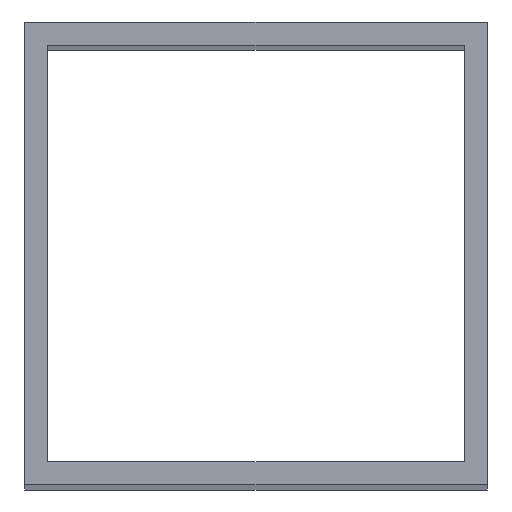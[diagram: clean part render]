
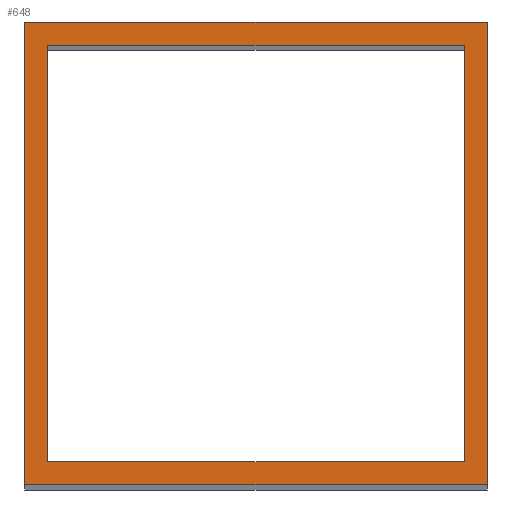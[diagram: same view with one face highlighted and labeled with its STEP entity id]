
A CAD part, top view. The second image highlights one B-rep face of the part: STEP entity #648.
In plain terms, the highlighted planar face has unit normal (0, 0, 1).
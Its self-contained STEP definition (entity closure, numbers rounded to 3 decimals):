
#24 = VERTEX_POINT('',#25);
#25 = CARTESIAN_POINT('',(50.,-50.,630.));
#32 = PLANE('',#33);
#33 = AXIS2_PLACEMENT_3D('',#34,#35,#36);
#34 = CARTESIAN_POINT('',(50.,-50.,0.));
#35 = DIRECTION('',(-0.,1.,-0.));
#36 = DIRECTION('',(1.,0.,0.));
#44 = PLANE('',#45);
#45 = AXIS2_PLACEMENT_3D('',#46,#47,#48);
#46 = CARTESIAN_POINT('',(50.,50.,0.));
#47 = DIRECTION('',(-1.,-0.,-0.));
#48 = DIRECTION('',(0.,1.,0.));
#56 = EDGE_CURVE('',#24,#57,#59,.T.);
#57 = VERTEX_POINT('',#58);
#58 = CARTESIAN_POINT('',(-50.,-50.,630.));
#59 = SURFACE_CURVE('',#60,(#64,#71),.PCURVE_S1.);
#60 = LINE('',#61,#62);
#61 = CARTESIAN_POINT('',(50.,-50.,630.));
#62 = VECTOR('',#63,1.);
#63 = DIRECTION('',(-1.,-0.,-0.));
#64 = PCURVE('',#32,#65);
#65 = DEFINITIONAL_REPRESENTATION('',(#66),#70);
#66 = LINE('',#67,#68);
#67 = CARTESIAN_POINT('',(-0.,-630.));
#68 = VECTOR('',#69,1.);
#69 = DIRECTION('',(-1.,0.));
#70 = ( GEOMETRIC_REPRESENTATION_CONTEXT(2) 
PARAMETRIC_REPRESENTATION_CONTEXT() REPRESENTATION_CONTEXT('2D SPACE',''
  ) );
#71 = PCURVE('',#72,#77);
#72 = PLANE('',#73);
#73 = AXIS2_PLACEMENT_3D('',#74,#75,#76);
#74 = CARTESIAN_POINT('',(0.,0.,630.));
#75 = DIRECTION('',(-0.,-0.,1.));
#76 = DIRECTION('',(1.,0.,0.));
#77 = DEFINITIONAL_REPRESENTATION('',(#78),#82);
#78 = LINE('',#79,#80);
#79 = CARTESIAN_POINT('',(50.,-50.));
#80 = VECTOR('',#81,1.);
#81 = DIRECTION('',(-1.,0.));
#82 = ( GEOMETRIC_REPRESENTATION_CONTEXT(2) 
PARAMETRIC_REPRESENTATION_CONTEXT() REPRESENTATION_CONTEXT('2D SPACE',''
  ) );
#100 = PLANE('',#101);
#101 = AXIS2_PLACEMENT_3D('',#102,#103,#104);
#102 = CARTESIAN_POINT('',(-50.,-50.,0.));
#103 = DIRECTION('',(1.,-0.,-0.));
#104 = DIRECTION('',(0.,-1.,0.));
#142 = EDGE_CURVE('',#57,#143,#145,.T.);
#143 = VERTEX_POINT('',#144);
#144 = CARTESIAN_POINT('',(-50.,50.,630.));
#145 = SURFACE_CURVE('',#146,(#150,#157),.PCURVE_S1.);
#146 = LINE('',#147,#148);
#147 = CARTESIAN_POINT('',(-50.,-50.,630.));
#148 = VECTOR('',#149,1.);
#149 = DIRECTION('',(-0.,1.,-0.));
#150 = PCURVE('',#100,#151);
#151 = DEFINITIONAL_REPRESENTATION('',(#152),#156);
#152 = LINE('',#153,#154);
#153 = CARTESIAN_POINT('',(-0.,-630.));
#154 = VECTOR('',#155,1.);
#155 = DIRECTION('',(-1.,0.));
#156 = ( GEOMETRIC_REPRESENTATION_CONTEXT(2) 
PARAMETRIC_REPRESENTATION_CONTEXT() REPRESENTATION_CONTEXT('2D SPACE',''
  ) );
#157 = PCURVE('',#72,#158);
#158 = DEFINITIONAL_REPRESENTATION('',(#159),#163);
#159 = LINE('',#160,#161);
#160 = CARTESIAN_POINT('',(-50.,-50.));
#161 = VECTOR('',#162,1.);
#162 = DIRECTION('',(-0.,1.));
#163 = ( GEOMETRIC_REPRESENTATION_CONTEXT(2) 
PARAMETRIC_REPRESENTATION_CONTEXT() REPRESENTATION_CONTEXT('2D SPACE',''
  ) );
#181 = PLANE('',#182);
#182 = AXIS2_PLACEMENT_3D('',#183,#184,#185);
#183 = CARTESIAN_POINT('',(-50.,50.,0.));
#184 = DIRECTION('',(-0.,-1.,-0.));
#185 = DIRECTION('',(-1.,0.,0.));
#218 = EDGE_CURVE('',#143,#219,#221,.T.);
#219 = VERTEX_POINT('',#220);
#220 = CARTESIAN_POINT('',(50.,50.,630.));
#221 = SURFACE_CURVE('',#222,(#226,#233),.PCURVE_S1.);
#222 = LINE('',#223,#224);
#223 = CARTESIAN_POINT('',(-50.,50.,630.));
#224 = VECTOR('',#225,1.);
#225 = DIRECTION('',(1.,-0.,-0.));
#226 = PCURVE('',#181,#227);
#227 = DEFINITIONAL_REPRESENTATION('',(#228),#232);
#228 = LINE('',#229,#230);
#229 = CARTESIAN_POINT('',(-0.,-630.));
#230 = VECTOR('',#231,1.);
#231 = DIRECTION('',(-1.,0.));
#232 = ( GEOMETRIC_REPRESENTATION_CONTEXT(2) 
PARAMETRIC_REPRESENTATION_CONTEXT() REPRESENTATION_CONTEXT('2D SPACE',''
  ) );
#233 = PCURVE('',#72,#234);
#234 = DEFINITIONAL_REPRESENTATION('',(#235),#239);
#235 = LINE('',#236,#237);
#236 = CARTESIAN_POINT('',(-50.,50.));
#237 = VECTOR('',#238,1.);
#238 = DIRECTION('',(1.,-0.));
#239 = ( GEOMETRIC_REPRESENTATION_CONTEXT(2) 
PARAMETRIC_REPRESENTATION_CONTEXT() REPRESENTATION_CONTEXT('2D SPACE',''
  ) );
#289 = EDGE_CURVE('',#219,#24,#290,.T.);
#290 = SURFACE_CURVE('',#291,(#295,#302),.PCURVE_S1.);
#291 = LINE('',#292,#293);
#292 = CARTESIAN_POINT('',(50.,50.,630.));
#293 = VECTOR('',#294,1.);
#294 = DIRECTION('',(-0.,-1.,-0.));
#295 = PCURVE('',#44,#296);
#296 = DEFINITIONAL_REPRESENTATION('',(#297),#301);
#297 = LINE('',#298,#299);
#298 = CARTESIAN_POINT('',(-0.,-630.));
#299 = VECTOR('',#300,1.);
#300 = DIRECTION('',(-1.,0.));
#301 = ( GEOMETRIC_REPRESENTATION_CONTEXT(2) 
PARAMETRIC_REPRESENTATION_CONTEXT() REPRESENTATION_CONTEXT('2D SPACE',''
  ) );
#302 = PCURVE('',#72,#303);
#303 = DEFINITIONAL_REPRESENTATION('',(#304),#308);
#304 = LINE('',#305,#306);
#305 = CARTESIAN_POINT('',(50.,50.));
#306 = VECTOR('',#307,1.);
#307 = DIRECTION('',(-0.,-1.));
#308 = ( GEOMETRIC_REPRESENTATION_CONTEXT(2) 
PARAMETRIC_REPRESENTATION_CONTEXT() REPRESENTATION_CONTEXT('2D SPACE',''
  ) );
#338 = VERTEX_POINT('',#339);
#339 = CARTESIAN_POINT('',(45.,-45.,630.));
#346 = PLANE('',#347);
#347 = AXIS2_PLACEMENT_3D('',#348,#349,#350);
#348 = CARTESIAN_POINT('',(45.,-45.,0.));
#349 = DIRECTION('',(-0.,1.,-0.));
#350 = DIRECTION('',(1.,0.,0.));
#358 = PLANE('',#359);
#359 = AXIS2_PLACEMENT_3D('',#360,#361,#362);
#360 = CARTESIAN_POINT('',(45.,45.,0.));
#361 = DIRECTION('',(-1.,-0.,-0.));
#362 = DIRECTION('',(0.,1.,0.));
#370 = EDGE_CURVE('',#338,#371,#373,.T.);
#371 = VERTEX_POINT('',#372);
#372 = CARTESIAN_POINT('',(-45.,-45.,630.));
#373 = SURFACE_CURVE('',#374,(#378,#385),.PCURVE_S1.);
#374 = LINE('',#375,#376);
#375 = CARTESIAN_POINT('',(45.,-45.,630.));
#376 = VECTOR('',#377,1.);
#377 = DIRECTION('',(-1.,-0.,-0.));
#378 = PCURVE('',#346,#379);
#379 = DEFINITIONAL_REPRESENTATION('',(#380),#384);
#380 = LINE('',#381,#382);
#381 = CARTESIAN_POINT('',(-0.,-630.));
#382 = VECTOR('',#383,1.);
#383 = DIRECTION('',(-1.,0.));
#384 = ( GEOMETRIC_REPRESENTATION_CONTEXT(2) 
PARAMETRIC_REPRESENTATION_CONTEXT() REPRESENTATION_CONTEXT('2D SPACE',''
  ) );
#385 = PCURVE('',#72,#386);
#386 = DEFINITIONAL_REPRESENTATION('',(#387),#391);
#387 = LINE('',#388,#389);
#388 = CARTESIAN_POINT('',(45.,-45.));
#389 = VECTOR('',#390,1.);
#390 = DIRECTION('',(-1.,0.));
#391 = ( GEOMETRIC_REPRESENTATION_CONTEXT(2) 
PARAMETRIC_REPRESENTATION_CONTEXT() REPRESENTATION_CONTEXT('2D SPACE',''
  ) );
#409 = PLANE('',#410);
#410 = AXIS2_PLACEMENT_3D('',#411,#412,#413);
#411 = CARTESIAN_POINT('',(-45.,-45.,0.));
#412 = DIRECTION('',(1.,-0.,-0.));
#413 = DIRECTION('',(0.,-1.,0.));
#446 = EDGE_CURVE('',#371,#447,#449,.T.);
#447 = VERTEX_POINT('',#448);
#448 = CARTESIAN_POINT('',(-45.,45.,630.));
#449 = SURFACE_CURVE('',#450,(#454,#461),.PCURVE_S1.);
#450 = LINE('',#451,#452);
#451 = CARTESIAN_POINT('',(-45.,-45.,630.));
#452 = VECTOR('',#453,1.);
#453 = DIRECTION('',(-0.,1.,-0.));
#454 = PCURVE('',#409,#455);
#455 = DEFINITIONAL_REPRESENTATION('',(#456),#460);
#456 = LINE('',#457,#458);
#457 = CARTESIAN_POINT('',(-0.,-630.));
#458 = VECTOR('',#459,1.);
#459 = DIRECTION('',(-1.,0.));
#460 = ( GEOMETRIC_REPRESENTATION_CONTEXT(2) 
PARAMETRIC_REPRESENTATION_CONTEXT() REPRESENTATION_CONTEXT('2D SPACE',''
  ) );
#461 = PCURVE('',#72,#462);
#462 = DEFINITIONAL_REPRESENTATION('',(#463),#467);
#463 = LINE('',#464,#465);
#464 = CARTESIAN_POINT('',(-45.,-45.));
#465 = VECTOR('',#466,1.);
#466 = DIRECTION('',(-0.,1.));
#467 = ( GEOMETRIC_REPRESENTATION_CONTEXT(2) 
PARAMETRIC_REPRESENTATION_CONTEXT() REPRESENTATION_CONTEXT('2D SPACE',''
  ) );
#485 = PLANE('',#486);
#486 = AXIS2_PLACEMENT_3D('',#487,#488,#489);
#487 = CARTESIAN_POINT('',(-45.,45.,0.));
#488 = DIRECTION('',(-0.,-1.,-0.));
#489 = DIRECTION('',(-1.,0.,0.));
#522 = EDGE_CURVE('',#447,#523,#525,.T.);
#523 = VERTEX_POINT('',#524);
#524 = CARTESIAN_POINT('',(45.,45.,630.));
#525 = SURFACE_CURVE('',#526,(#530,#537),.PCURVE_S1.);
#526 = LINE('',#527,#528);
#527 = CARTESIAN_POINT('',(-45.,45.,630.));
#528 = VECTOR('',#529,1.);
#529 = DIRECTION('',(1.,-0.,-0.));
#530 = PCURVE('',#485,#531);
#531 = DEFINITIONAL_REPRESENTATION('',(#532),#536);
#532 = LINE('',#533,#534);
#533 = CARTESIAN_POINT('',(-0.,-630.));
#534 = VECTOR('',#535,1.);
#535 = DIRECTION('',(-1.,0.));
#536 = ( GEOMETRIC_REPRESENTATION_CONTEXT(2) 
PARAMETRIC_REPRESENTATION_CONTEXT() REPRESENTATION_CONTEXT('2D SPACE',''
  ) );
#537 = PCURVE('',#72,#538);
#538 = DEFINITIONAL_REPRESENTATION('',(#539),#543);
#539 = LINE('',#540,#541);
#540 = CARTESIAN_POINT('',(-45.,45.));
#541 = VECTOR('',#542,1.);
#542 = DIRECTION('',(1.,-0.));
#543 = ( GEOMETRIC_REPRESENTATION_CONTEXT(2) 
PARAMETRIC_REPRESENTATION_CONTEXT() REPRESENTATION_CONTEXT('2D SPACE',''
  ) );
#593 = EDGE_CURVE('',#523,#338,#594,.T.);
#594 = SURFACE_CURVE('',#595,(#599,#606),.PCURVE_S1.);
#595 = LINE('',#596,#597);
#596 = CARTESIAN_POINT('',(45.,45.,630.));
#597 = VECTOR('',#598,1.);
#598 = DIRECTION('',(-0.,-1.,-0.));
#599 = PCURVE('',#358,#600);
#600 = DEFINITIONAL_REPRESENTATION('',(#601),#605);
#601 = LINE('',#602,#603);
#602 = CARTESIAN_POINT('',(-0.,-630.));
#603 = VECTOR('',#604,1.);
#604 = DIRECTION('',(-1.,0.));
#605 = ( GEOMETRIC_REPRESENTATION_CONTEXT(2) 
PARAMETRIC_REPRESENTATION_CONTEXT() REPRESENTATION_CONTEXT('2D SPACE',''
  ) );
#606 = PCURVE('',#72,#607);
#607 = DEFINITIONAL_REPRESENTATION('',(#608),#612);
#608 = LINE('',#609,#610);
#609 = CARTESIAN_POINT('',(45.,45.));
#610 = VECTOR('',#611,1.);
#611 = DIRECTION('',(-0.,-1.));
#612 = ( GEOMETRIC_REPRESENTATION_CONTEXT(2) 
PARAMETRIC_REPRESENTATION_CONTEXT() REPRESENTATION_CONTEXT('2D SPACE',''
  ) );
#648 = ADVANCED_FACE('',(#649,#655),#72,.T.);
#649 = FACE_BOUND('',#650,.F.);
#650 = EDGE_LOOP('',(#651,#652,#653,#654));
#651 = ORIENTED_EDGE('',*,*,#56,.T.);
#652 = ORIENTED_EDGE('',*,*,#142,.T.);
#653 = ORIENTED_EDGE('',*,*,#218,.T.);
#654 = ORIENTED_EDGE('',*,*,#289,.T.);
#655 = FACE_BOUND('',#656,.T.);
#656 = EDGE_LOOP('',(#657,#658,#659,#660));
#657 = ORIENTED_EDGE('',*,*,#370,.T.);
#658 = ORIENTED_EDGE('',*,*,#446,.T.);
#659 = ORIENTED_EDGE('',*,*,#522,.T.);
#660 = ORIENTED_EDGE('',*,*,#593,.T.);
